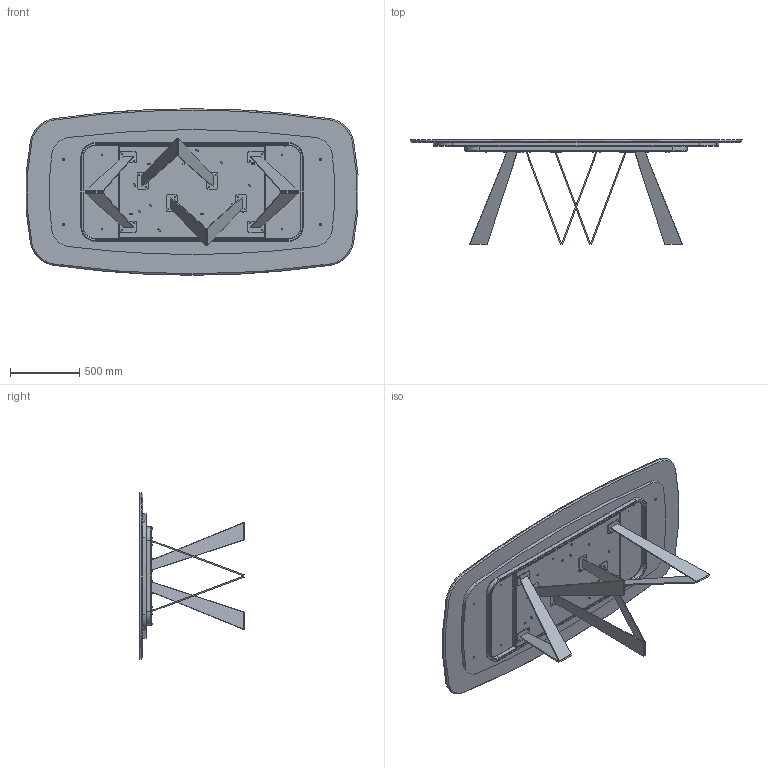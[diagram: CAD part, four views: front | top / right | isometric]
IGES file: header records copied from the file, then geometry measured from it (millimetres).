
Start section: SolidWorks IGES file using analytic representation for surfaces
Global section: file name: Y:\eforma\TECNICO\SOLIDWORKS\E-FORMA\1-TAVOLI\NOA TAVOLO\02 parts\NO43M_Noa_240x120x75h_Marble Shaped.IGS; native system: SolidWorks 2022; preprocessor: SolidWorks 2022; author: eforma.tech; date: 240807.162554; units: millimetre
Bounding box: 2391.9 x 752.8 x 1200 mm (x, y, z)
Volume: 104967344.5 mm3; surface area: 13027948.4 mm2
Topology: 71 solids, 71 shells, 1729 faces, 3971 edges, 2345 vertices
Faces by surface type: revolution 1095, plane 634
